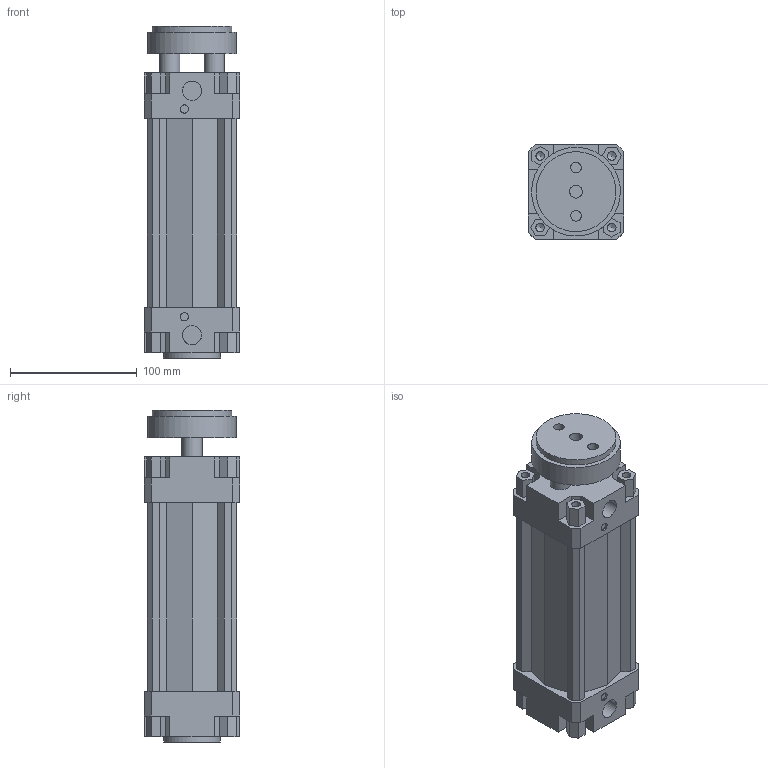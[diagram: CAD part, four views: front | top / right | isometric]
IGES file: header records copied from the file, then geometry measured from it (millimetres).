
Global section: file name: 132#_063_0100_01; native system: Autodesk Inventor 2014; preprocessor: unknown; author: A. Manieri; date: 20161006.155924; units: millimetre
Bounding box: 75 x 75 x 262 mm (x, y, z)
Volume: 831469.3 mm3; surface area: 172364.2 mm2
Topology: 2 solids, 2 shells, 180 faces, 491 edges, 335 vertices
Faces by surface type: bspline 180
